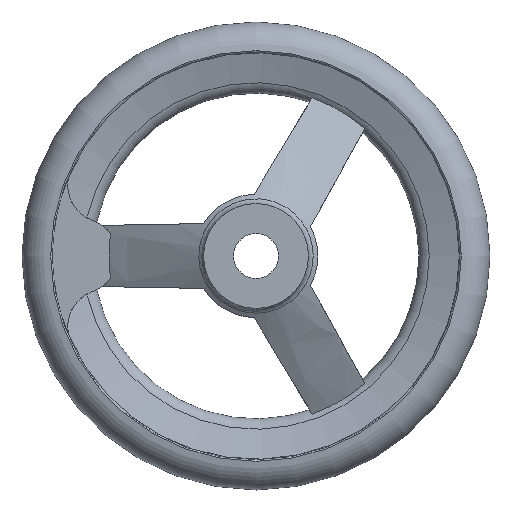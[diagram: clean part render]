
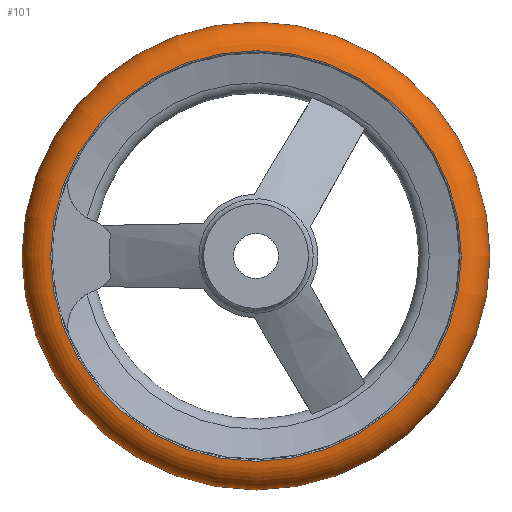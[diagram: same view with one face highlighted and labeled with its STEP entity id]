
A CAD part, left-side view. The second image highlights one B-rep face of the part: STEP entity #101.
In plain terms, the highlighted toroidal (fillet/blend) face has major radius 54.493 mm and minor radius 8.007 mm.
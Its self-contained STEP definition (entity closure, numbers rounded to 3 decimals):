
#101 = ADVANCED_FACE( '', ( #180, #181, #182 ), #183, .T. );
#180 = FACE_BOUND( '', #273, .T. );
#181 = FACE_OUTER_BOUND( '', #274, .T. );
#182 = FACE_OUTER_BOUND( '', #275, .T. );
#183 = TOROIDAL_SURFACE( '', #276, 54.493, 8.007 );
#273 = VERTEX_LOOP( '', #503 );
#274 = EDGE_LOOP( '', ( #504 ) );
#275 = EDGE_LOOP( '', ( #505 ) );
#276 = AXIS2_PLACEMENT_3D( '', #506, #507, #508 );
#503 = VERTEX_POINT( '', #667 );
#504 = ORIENTED_EDGE( '', *, *, #668, .T. );
#505 = ORIENTED_EDGE( '', *, *, #666, .F. );
#506 = CARTESIAN_POINT( '', ( 28., 0., 0. ) );
#507 = DIRECTION( '', ( -1., 0., 0. ) );
#508 = DIRECTION( '', ( 0., -1., 0. ) );
#666 = EDGE_CURVE( '', #815, #815, #816, .T. );
#667 = CARTESIAN_POINT( '', ( 28., -62.5, 0. ) );
#668 = EDGE_CURVE( '', #817, #817, #818, .T. );
#815 = VERTEX_POINT( '', #1315 );
#816 = CIRCLE( '', #1316, 54.833 );
#817 = VERTEX_POINT( '', #1317 );
#818 = CIRCLE( '', #1318, 54.833 );
#1315 = CARTESIAN_POINT( '', ( 20., -54.833, 0. ) );
#1316 = AXIS2_PLACEMENT_3D( '', #1474, #1475, #1476 );
#1317 = CARTESIAN_POINT( '', ( 36., -54.833, 0. ) );
#1318 = AXIS2_PLACEMENT_3D( '', #1477, #1478, #1479 );
#1474 = CARTESIAN_POINT( '', ( 20., 0., 0. ) );
#1475 = DIRECTION( '', ( -1., 0., 0. ) );
#1476 = DIRECTION( '', ( 0., -1., 0. ) );
#1477 = CARTESIAN_POINT( '', ( 36., 0., 0. ) );
#1478 = DIRECTION( '', ( -1., 0., 0. ) );
#1479 = DIRECTION( '', ( 0., -1., 0. ) );
